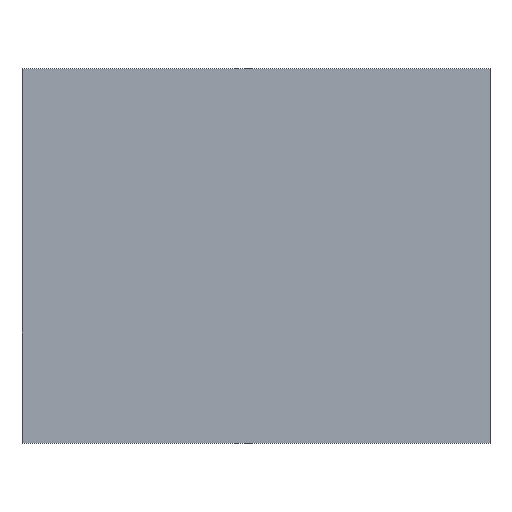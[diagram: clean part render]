
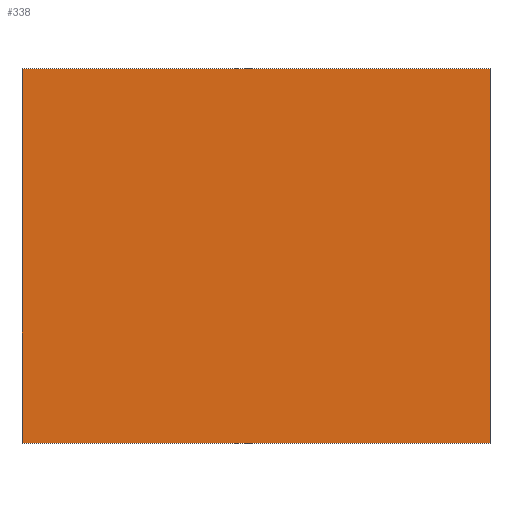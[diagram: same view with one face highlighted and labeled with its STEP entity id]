
A CAD part, top view. The second image highlights one B-rep face of the part: STEP entity #338.
In plain terms, the highlighted planar face has unit normal (0, 0, 1).
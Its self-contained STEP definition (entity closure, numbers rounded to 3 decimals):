
#24 = VERTEX_POINT('',#25);
#25 = CARTESIAN_POINT('',(39.5,10.,9.4));
#32 = PLANE('',#33);
#33 = AXIS2_PLACEMENT_3D('',#34,#35,#36);
#34 = CARTESIAN_POINT('',(39.5,10.,4.4));
#35 = DIRECTION('',(1.,0.,-0.));
#36 = DIRECTION('',(0.,0.,1.));
#44 = PLANE('',#45);
#45 = AXIS2_PLACEMENT_3D('',#46,#47,#48);
#46 = CARTESIAN_POINT('',(39.5,10.,4.4));
#47 = DIRECTION('',(-0.,1.,0.));
#48 = DIRECTION('',(0.,0.,1.));
#85 = VERTEX_POINT('',#86);
#86 = CARTESIAN_POINT('',(39.5,30.,9.4));
#100 = PLANE('',#101);
#101 = AXIS2_PLACEMENT_3D('',#102,#103,#104);
#102 = CARTESIAN_POINT('',(39.5,30.,4.4));
#103 = DIRECTION('',(-0.,1.,0.));
#104 = DIRECTION('',(0.,0.,1.));
#112 = EDGE_CURVE('',#24,#85,#113,.T.);
#113 = SURFACE_CURVE('',#114,(#118,#125),.PCURVE_S1.);
#114 = LINE('',#115,#116);
#115 = CARTESIAN_POINT('',(39.5,10.,9.4));
#116 = VECTOR('',#117,1.);
#117 = DIRECTION('',(-0.,1.,0.));
#118 = PCURVE('',#32,#119);
#119 = DEFINITIONAL_REPRESENTATION('',(#120),#124);
#120 = LINE('',#121,#122);
#121 = CARTESIAN_POINT('',(5.,0.));
#122 = VECTOR('',#123,1.);
#123 = DIRECTION('',(0.,-1.));
#124 = ( GEOMETRIC_REPRESENTATION_CONTEXT(2) 
PARAMETRIC_REPRESENTATION_CONTEXT() REPRESENTATION_CONTEXT('2D SPACE',''
  ) );
#125 = PCURVE('',#126,#131);
#126 = PLANE('',#127);
#127 = AXIS2_PLACEMENT_3D('',#128,#129,#130);
#128 = CARTESIAN_POINT('',(39.5,10.,9.4));
#129 = DIRECTION('',(0.,0.,1.));
#130 = DIRECTION('',(1.,0.,-0.));
#131 = DEFINITIONAL_REPRESENTATION('',(#132),#136);
#132 = LINE('',#133,#134);
#133 = CARTESIAN_POINT('',(0.,0.));
#134 = VECTOR('',#135,1.);
#135 = DIRECTION('',(0.,1.));
#136 = ( GEOMETRIC_REPRESENTATION_CONTEXT(2) 
PARAMETRIC_REPRESENTATION_CONTEXT() REPRESENTATION_CONTEXT('2D SPACE',''
  ) );
#144 = VERTEX_POINT('',#145);
#145 = CARTESIAN_POINT('',(64.5,10.,9.4));
#152 = PLANE('',#153);
#153 = AXIS2_PLACEMENT_3D('',#154,#155,#156);
#154 = CARTESIAN_POINT('',(64.5,10.,4.4));
#155 = DIRECTION('',(1.,0.,-0.));
#156 = DIRECTION('',(0.,0.,1.));
#195 = VERTEX_POINT('',#196);
#196 = CARTESIAN_POINT('',(64.5,30.,9.4));
#217 = EDGE_CURVE('',#144,#195,#218,.T.);
#218 = SURFACE_CURVE('',#219,(#223,#230),.PCURVE_S1.);
#219 = LINE('',#220,#221);
#220 = CARTESIAN_POINT('',(64.5,10.,9.4));
#221 = VECTOR('',#222,1.);
#222 = DIRECTION('',(-0.,1.,0.));
#223 = PCURVE('',#152,#224);
#224 = DEFINITIONAL_REPRESENTATION('',(#225),#229);
#225 = LINE('',#226,#227);
#226 = CARTESIAN_POINT('',(5.,0.));
#227 = VECTOR('',#228,1.);
#228 = DIRECTION('',(0.,-1.));
#229 = ( GEOMETRIC_REPRESENTATION_CONTEXT(2) 
PARAMETRIC_REPRESENTATION_CONTEXT() REPRESENTATION_CONTEXT('2D SPACE',''
  ) );
#230 = PCURVE('',#126,#231);
#231 = DEFINITIONAL_REPRESENTATION('',(#232),#236);
#232 = LINE('',#233,#234);
#233 = CARTESIAN_POINT('',(25.,0.));
#234 = VECTOR('',#235,1.);
#235 = DIRECTION('',(0.,1.));
#236 = ( GEOMETRIC_REPRESENTATION_CONTEXT(2) 
PARAMETRIC_REPRESENTATION_CONTEXT() REPRESENTATION_CONTEXT('2D SPACE',''
  ) );
#263 = EDGE_CURVE('',#24,#144,#264,.T.);
#264 = SURFACE_CURVE('',#265,(#269,#276),.PCURVE_S1.);
#265 = LINE('',#266,#267);
#266 = CARTESIAN_POINT('',(39.5,10.,9.4));
#267 = VECTOR('',#268,1.);
#268 = DIRECTION('',(1.,0.,-0.));
#269 = PCURVE('',#44,#270);
#270 = DEFINITIONAL_REPRESENTATION('',(#271),#275);
#271 = LINE('',#272,#273);
#272 = CARTESIAN_POINT('',(5.,0.));
#273 = VECTOR('',#274,1.);
#274 = DIRECTION('',(0.,1.));
#275 = ( GEOMETRIC_REPRESENTATION_CONTEXT(2) 
PARAMETRIC_REPRESENTATION_CONTEXT() REPRESENTATION_CONTEXT('2D SPACE',''
  ) );
#276 = PCURVE('',#126,#277);
#277 = DEFINITIONAL_REPRESENTATION('',(#278),#282);
#278 = LINE('',#279,#280);
#279 = CARTESIAN_POINT('',(0.,0.));
#280 = VECTOR('',#281,1.);
#281 = DIRECTION('',(1.,0.));
#282 = ( GEOMETRIC_REPRESENTATION_CONTEXT(2) 
PARAMETRIC_REPRESENTATION_CONTEXT() REPRESENTATION_CONTEXT('2D SPACE',''
  ) );
#310 = EDGE_CURVE('',#85,#195,#311,.T.);
#311 = SURFACE_CURVE('',#312,(#316,#323),.PCURVE_S1.);
#312 = LINE('',#313,#314);
#313 = CARTESIAN_POINT('',(39.5,30.,9.4));
#314 = VECTOR('',#315,1.);
#315 = DIRECTION('',(1.,0.,-0.));
#316 = PCURVE('',#100,#317);
#317 = DEFINITIONAL_REPRESENTATION('',(#318),#322);
#318 = LINE('',#319,#320);
#319 = CARTESIAN_POINT('',(5.,0.));
#320 = VECTOR('',#321,1.);
#321 = DIRECTION('',(0.,1.));
#322 = ( GEOMETRIC_REPRESENTATION_CONTEXT(2) 
PARAMETRIC_REPRESENTATION_CONTEXT() REPRESENTATION_CONTEXT('2D SPACE',''
  ) );
#323 = PCURVE('',#126,#324);
#324 = DEFINITIONAL_REPRESENTATION('',(#325),#329);
#325 = LINE('',#326,#327);
#326 = CARTESIAN_POINT('',(0.,20.));
#327 = VECTOR('',#328,1.);
#328 = DIRECTION('',(1.,0.));
#329 = ( GEOMETRIC_REPRESENTATION_CONTEXT(2) 
PARAMETRIC_REPRESENTATION_CONTEXT() REPRESENTATION_CONTEXT('2D SPACE',''
  ) );
#338 = ADVANCED_FACE('',(#339),#126,.T.);
#339 = FACE_BOUND('',#340,.T.);
#340 = EDGE_LOOP('',(#341,#342,#343,#344));
#341 = ORIENTED_EDGE('',*,*,#112,.F.);
#342 = ORIENTED_EDGE('',*,*,#263,.T.);
#343 = ORIENTED_EDGE('',*,*,#217,.T.);
#344 = ORIENTED_EDGE('',*,*,#310,.F.);
